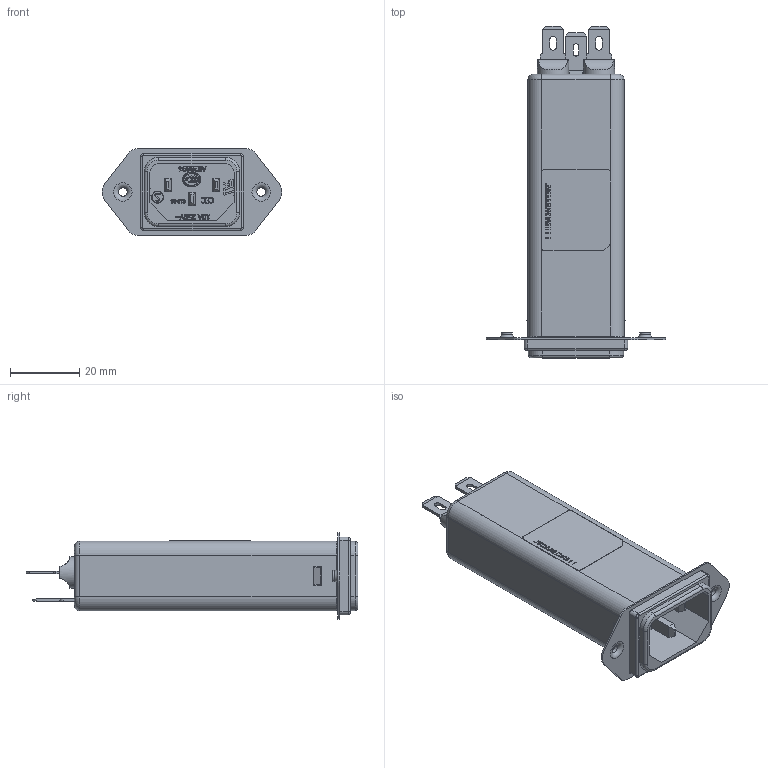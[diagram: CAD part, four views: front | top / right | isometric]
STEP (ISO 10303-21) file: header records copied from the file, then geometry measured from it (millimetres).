
FILE_DESCRIPTION(/* description */ ('naming raw material'),/* implementation_level */ '2;1');
FILE_NAME(/* name */ 'C:\SapWorkDir\Inventor\P01\ConvertTempPath\193009_IPT_000.ipt.stp',/* time_stamp */ '2018-07-02T16:25:23+07:00',/* author */ ('Eakchai.Yodchai'),/* organization */ ('Schaffner Thailand Ltd.'),/* preprocessor_version */ 'ST-DEVELOPER v16.5',/* originating_system */ 'Autodesk Inventor 2017',/* authorisation */ '');
FILE_SCHEMA (('AUTOMOTIVE_DESIGN { 1 0 10303 214 3 1 1 }'));
Products named in the file (1): 193009_IPT_000
Bounding box: 51.85 x 96 x 25 mm (x, y, z)
Volume: 12732.5 mm3; surface area: 32154.5 mm2
Topology: 1 solids, 1 shells, 1881 faces, 5281 edges, 3460 vertices
Faces by surface type: plane 1355, bspline 335, cylinder 161, torus 30
Full cylindrical faces by diameter (mm): 2.459 x2, 3.15 x1, 3.5 x1, 9 x2, 9.5 x2
Entity records: 64221 total; most frequent: CARTESIAN_POINT 15703, ORIENTED_EDGE 10530, DIRECTION 8072, EDGE_CURVE 5263, LINE 4208, VECTOR 4208, VERTEX_POINT 3456, EDGE_LOOP 2029
